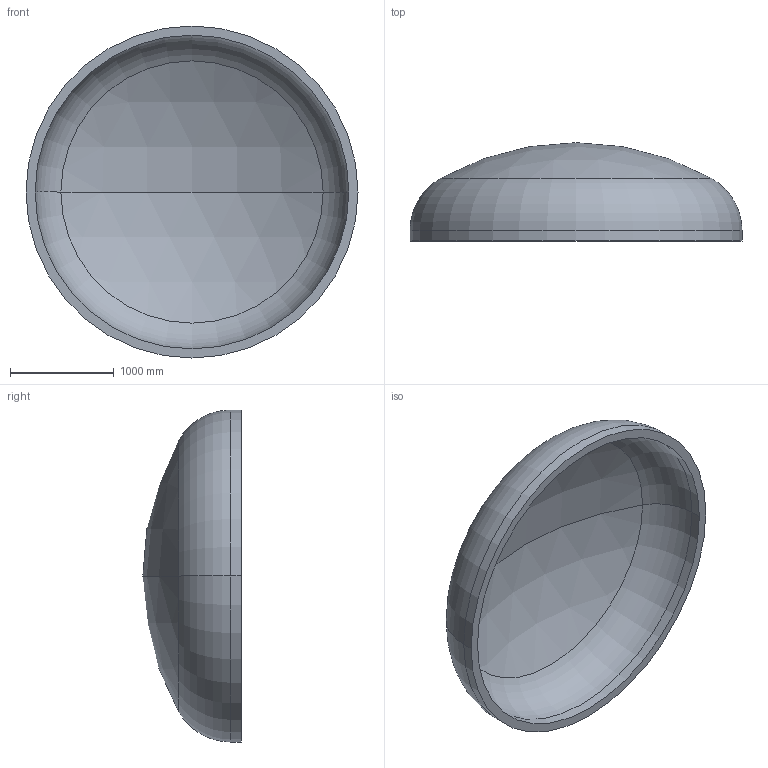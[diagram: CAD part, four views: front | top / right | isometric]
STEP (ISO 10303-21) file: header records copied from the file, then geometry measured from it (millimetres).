
FILE_DESCRIPTION (( 'STEP AP203' ), '1' );
FILE_NAME ('DIN 28013 Korbbogenform_-_Boden DIN 28013 - 3200 x 100 - I - s=88.step', '2016-07-01T18:54:36', ( '' ), ( '' ), 'SwSTEP 2.0', 'SolidWorks 2013', '' );
FILE_SCHEMA (( 'CONFIG_CONTROL_DESIGN' ));
Length unit declared in the file: millimetre
Products named in the file (1): DIN 28013 Korbbogenform_-_Boden DIN 28013 - 3200 x 100 - I - s=88
Bounding box: 3200 x 947.88 x 3200 mm (x, y, z)
Volume: 1030507065.9 mm3; surface area: 24297170.3 mm2
Topology: 1 solids, 1 shells, 13 faces, 24 edges, 14 vertices
Faces by surface type: torus 4, cylinder 4, sphere 4, plane 1
Entity records: 407 total; most frequent: DIRECTION 72, CARTESIAN_POINT 52, ORIENTED_EDGE 48, AXIS2_PLACEMENT_3D 34, EDGE_CURVE 24, CIRCLE 20, EDGE_LOOP 14, VERTEX_POINT 14
